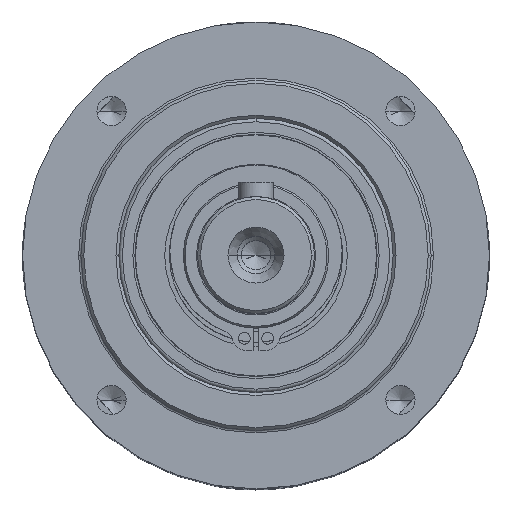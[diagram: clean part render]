
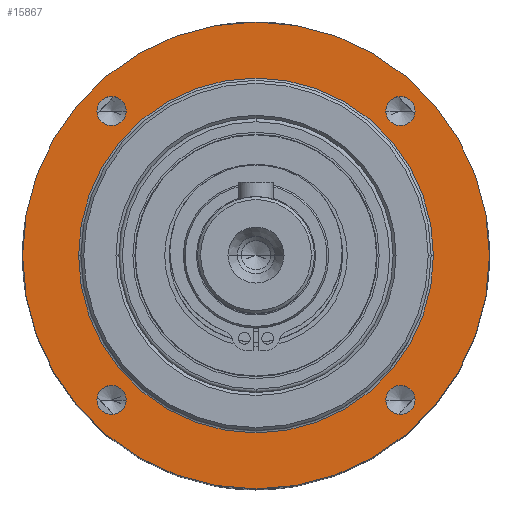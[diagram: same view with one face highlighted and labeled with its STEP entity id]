
A CAD part, top view. The second image highlights one B-rep face of the part: STEP entity #15867.
In plain terms, the highlighted planar face has unit normal (0, 0, 1).
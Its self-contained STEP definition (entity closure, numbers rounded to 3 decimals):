
#88 = ORIENTED_EDGE ( 'NONE', *, *, #14186, .T. ) ;
#103 = EDGE_LOOP ( 'NONE', ( #13628, #22245 ) ) ;
#135 = VERTEX_POINT ( 'NONE', #4254 ) ;
#143 = CARTESIAN_POINT ( 'NONE',  ( 22.249, -24.749, 10.5 ) ) ;
#206 = AXIS2_PLACEMENT_3D ( 'NONE', #18075, #20048, #18520 ) ;
#440 = CARTESIAN_POINT ( 'NONE',  ( 27.249, 24.749, 10.5 ) ) ;
#501 = FACE_BOUND ( 'NONE', #19195, .T. ) ;
#930 = CARTESIAN_POINT ( 'NONE',  ( -22.249, 24.749, 10.5 ) ) ;
#1362 = CARTESIAN_POINT ( 'NONE',  ( 30.4, 0., 10.5 ) ) ;
#1417 = CARTESIAN_POINT ( 'NONE',  ( -24.749, -24.749, 10.5 ) ) ;
#1551 = DIRECTION ( 'NONE',  ( 0., 0., 1. ) ) ;
#1636 = CARTESIAN_POINT ( 'NONE',  ( 24.749, -24.749, 10.5 ) ) ;
#1829 = ORIENTED_EDGE ( 'NONE', *, *, #12155, .F. ) ;
#1954 = CIRCLE ( 'NONE', #20035, 30.4 ) ;
#2593 = EDGE_CURVE ( 'NONE', #17656, #8703, #21384, .T. ) ;
#2678 = VERTEX_POINT ( 'NONE', #930 ) ;
#2886 = EDGE_LOOP ( 'NONE', ( #12627, #6625 ) ) ;
#2914 = ORIENTED_EDGE ( 'NONE', *, *, #7856, .F. ) ;
#3199 = AXIS2_PLACEMENT_3D ( 'NONE', #18241, #7596, #14770 ) ;
#3335 = VERTEX_POINT ( 'NONE', #10056 ) ;
#3928 = AXIS2_PLACEMENT_3D ( 'NONE', #12741, #19980, #21202 ) ;
#4153 = AXIS2_PLACEMENT_3D ( 'NONE', #20278, #7754, #6102 ) ;
#4254 = CARTESIAN_POINT ( 'NONE',  ( 27.249, -24.749, 10.5 ) ) ;
#4666 = VERTEX_POINT ( 'NONE', #143 ) ;
#4669 = DIRECTION ( 'NONE',  ( 0., 0., -1. ) ) ;
#5126 = EDGE_CURVE ( 'NONE', #7169, #11213, #1954, .T. ) ;
#5132 = CIRCLE ( 'NONE', #206, 2.5 ) ;
#5429 = DIRECTION ( 'NONE',  ( 0., 0., 1. ) ) ;
#5496 = CARTESIAN_POINT ( 'NONE',  ( 40., 0., 10.5 ) ) ;
#5621 = VERTEX_POINT ( 'NONE', #14287 ) ;
#5719 = FACE_BOUND ( 'NONE', #11622, .T. ) ;
#6102 = DIRECTION ( 'NONE',  ( 1., 0., 0. ) ) ;
#6285 = AXIS2_PLACEMENT_3D ( 'NONE', #17740, #1551, #23283 ) ;
#6303 = CARTESIAN_POINT ( 'NONE',  ( 0., 40., 10.5 ) ) ;
#6557 = DIRECTION ( 'NONE',  ( 0., 0., 1. ) ) ;
#6625 = ORIENTED_EDGE ( 'NONE', *, *, #19491, .F. ) ;
#6677 = CARTESIAN_POINT ( 'NONE',  ( 0., 0., 10.5 ) ) ;
#6851 = DIRECTION ( 'NONE',  ( 1., 0., 0. ) ) ;
#7015 = CIRCLE ( 'NONE', #22835, 40. ) ;
#7169 = VERTEX_POINT ( 'NONE', #1362 ) ;
#7204 = EDGE_CURVE ( 'NONE', #22832, #11324, #13752, .T. ) ;
#7332 = EDGE_LOOP ( 'NONE', ( #22485, #17486 ) ) ;
#7527 = EDGE_CURVE ( 'NONE', #11324, #22832, #7015, .T. ) ;
#7596 = DIRECTION ( 'NONE',  ( 0., 0., 1. ) ) ;
#7704 = FACE_BOUND ( 'NONE', #22032, .T. ) ;
#7754 = DIRECTION ( 'NONE',  ( 0., 0., 1. ) ) ;
#7856 = EDGE_CURVE ( 'NONE', #8703, #17656, #17174, .T. ) ;
#7962 = EDGE_CURVE ( 'NONE', #13895, #3335, #8884, .T. ) ;
#8703 = VERTEX_POINT ( 'NONE', #11381 ) ;
#8884 = CIRCLE ( 'NONE', #6285, 2.5 ) ;
#9459 = DIRECTION ( 'NONE',  ( 0., 0., -1. ) ) ;
#10022 = DIRECTION ( 'NONE',  ( 1., 0., 0. ) ) ;
#10056 = CARTESIAN_POINT ( 'NONE',  ( 22.249, 24.749, 10.5 ) ) ;
#10264 = DIRECTION ( 'NONE',  ( 0., 0., 1. ) ) ;
#11213 = VERTEX_POINT ( 'NONE', #19805 ) ;
#11324 = VERTEX_POINT ( 'NONE', #14462 ) ;
#11381 = CARTESIAN_POINT ( 'NONE',  ( -27.249, -24.749, 10.5 ) ) ;
#11622 = EDGE_LOOP ( 'NONE', ( #88, #17303 ) ) ;
#11851 = DIRECTION ( 'NONE',  ( -1., 0., 0. ) ) ;
#12155 = EDGE_CURVE ( 'NONE', #3335, #13895, #20059, .T. ) ;
#12627 = ORIENTED_EDGE ( 'NONE', *, *, #13645, .F. ) ;
#12741 = CARTESIAN_POINT ( 'NONE',  ( 0., 0., 10.5 ) ) ;
#12783 = ORIENTED_EDGE ( 'NONE', *, *, #7962, .F. ) ;
#12825 = CARTESIAN_POINT ( 'NONE',  ( 0., 0., 10.5 ) ) ;
#12861 = AXIS2_PLACEMENT_3D ( 'NONE', #22706, #6557, #20960 ) ;
#12878 = PLANE ( 'NONE',  #21652 ) ;
#12987 = DIRECTION ( 'NONE',  ( -1., 0., 0. ) ) ;
#13100 = CARTESIAN_POINT ( 'NONE',  ( 0., 0., 10.5 ) ) ;
#13628 = ORIENTED_EDGE ( 'NONE', *, *, #7204, .T. ) ;
#13645 = EDGE_CURVE ( 'NONE', #135, #4666, #13758, .T. ) ;
#13752 = CIRCLE ( 'NONE', #3928, 40. ) ;
#13758 = CIRCLE ( 'NONE', #18312, 2.5 ) ;
#13867 = EDGE_CURVE ( 'NONE', #2678, #5621, #5132, .T. ) ;
#13895 = VERTEX_POINT ( 'NONE', #440 ) ;
#14186 = EDGE_CURVE ( 'NONE', #11213, #7169, #18744, .T. ) ;
#14276 = DIRECTION ( 'NONE',  ( 1., 0., 0. ) ) ;
#14287 = CARTESIAN_POINT ( 'NONE',  ( -27.249, 24.749, 10.5 ) ) ;
#14462 = CARTESIAN_POINT ( 'NONE',  ( -40., 0., 10.5 ) ) ;
#14553 = ORIENTED_EDGE ( 'NONE', *, *, #2593, .F. ) ;
#14695 = CIRCLE ( 'NONE', #4153, 2.5 ) ;
#14770 = DIRECTION ( 'NONE',  ( 1., 0., 0. ) ) ;
#14881 = FACE_OUTER_BOUND ( 'NONE', #103, .T. ) ;
#15554 = CARTESIAN_POINT ( 'NONE',  ( -24.749, -24.749, 10.5 ) ) ;
#15687 = DIRECTION ( 'NONE',  ( 0., 0., 1. ) ) ;
#15867 = ADVANCED_FACE ( 'NONE', ( #5719, #501, #16439, #7704, #20113, #14881 ), #12878, .F. ) ;
#16439 = FACE_BOUND ( 'NONE', #2886, .T. ) ;
#16997 = DIRECTION ( 'NONE',  ( 0., 0., -1. ) ) ;
#17174 = CIRCLE ( 'NONE', #23234, 2.5 ) ;
#17226 = AXIS2_PLACEMENT_3D ( 'NONE', #13100, #9459, #12987 ) ;
#17303 = ORIENTED_EDGE ( 'NONE', *, *, #5126, .T. ) ;
#17486 = ORIENTED_EDGE ( 'NONE', *, *, #18197, .F. ) ;
#17656 = VERTEX_POINT ( 'NONE', #21965 ) ;
#17740 = CARTESIAN_POINT ( 'NONE',  ( 24.749, 24.749, 10.5 ) ) ;
#18075 = CARTESIAN_POINT ( 'NONE',  ( -24.749, 24.749, 10.5 ) ) ;
#18197 = EDGE_CURVE ( 'NONE', #5621, #2678, #14695, .T. ) ;
#18241 = CARTESIAN_POINT ( 'NONE',  ( 24.749, -24.749, 10.5 ) ) ;
#18312 = AXIS2_PLACEMENT_3D ( 'NONE', #1636, #21480, #19591 ) ;
#18520 = DIRECTION ( 'NONE',  ( 1., 0., 0. ) ) ;
#18741 = AXIS2_PLACEMENT_3D ( 'NONE', #15554, #15687, #10022 ) ;
#18744 = CIRCLE ( 'NONE', #17226, 30.4 ) ;
#19041 = CIRCLE ( 'NONE', #3199, 2.5 ) ;
#19173 = DIRECTION ( 'NONE',  ( -1., 0., 0. ) ) ;
#19195 = EDGE_LOOP ( 'NONE', ( #12783, #1829 ) ) ;
#19491 = EDGE_CURVE ( 'NONE', #4666, #135, #19041, .T. ) ;
#19591 = DIRECTION ( 'NONE',  ( 1., 0., 0. ) ) ;
#19805 = CARTESIAN_POINT ( 'NONE',  ( -30.4, 0., 10.5 ) ) ;
#19980 = DIRECTION ( 'NONE',  ( 0., 0., 1. ) ) ;
#20035 = AXIS2_PLACEMENT_3D ( 'NONE', #6677, #4669, #11851 ) ;
#20048 = DIRECTION ( 'NONE',  ( 0., 0., 1. ) ) ;
#20059 = CIRCLE ( 'NONE', #12861, 2.5 ) ;
#20113 = FACE_BOUND ( 'NONE', #7332, .T. ) ;
#20278 = CARTESIAN_POINT ( 'NONE',  ( -24.749, 24.749, 10.5 ) ) ;
#20960 = DIRECTION ( 'NONE',  ( 1., 0., 0. ) ) ;
#21202 = DIRECTION ( 'NONE',  ( 1., 0., 0. ) ) ;
#21384 = CIRCLE ( 'NONE', #18741, 2.5 ) ;
#21480 = DIRECTION ( 'NONE',  ( 0., 0., 1. ) ) ;
#21652 = AXIS2_PLACEMENT_3D ( 'NONE', #6303, #16997, #19173 ) ;
#21965 = CARTESIAN_POINT ( 'NONE',  ( -22.249, -24.749, 10.5 ) ) ;
#22032 = EDGE_LOOP ( 'NONE', ( #14553, #2914 ) ) ;
#22245 = ORIENTED_EDGE ( 'NONE', *, *, #7527, .T. ) ;
#22485 = ORIENTED_EDGE ( 'NONE', *, *, #13867, .F. ) ;
#22706 = CARTESIAN_POINT ( 'NONE',  ( 24.749, 24.749, 10.5 ) ) ;
#22832 = VERTEX_POINT ( 'NONE', #5496 ) ;
#22835 = AXIS2_PLACEMENT_3D ( 'NONE', #12825, #5429, #14276 ) ;
#23234 = AXIS2_PLACEMENT_3D ( 'NONE', #1417, #10264, #6851 ) ;
#23283 = DIRECTION ( 'NONE',  ( 1., 0., 0. ) ) ;
